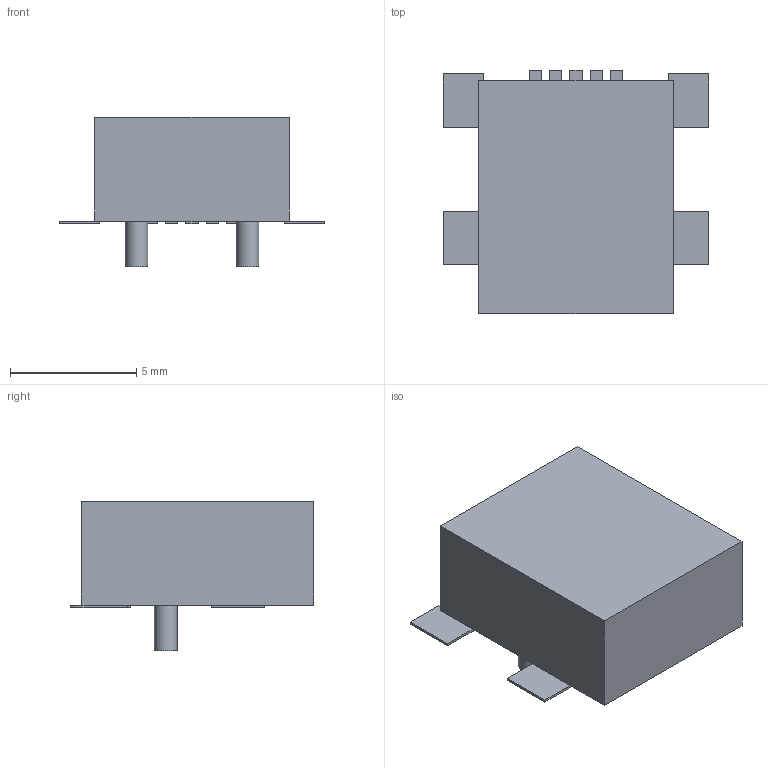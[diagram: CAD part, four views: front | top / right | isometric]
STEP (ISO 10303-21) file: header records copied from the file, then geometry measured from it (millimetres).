
FILE_DESCRIPTION(('FreeCAD Model'),'2;1');
FILE_NAME('/var/www/3D/0T/818698.1.2.stp','2020-06-30T16:17:21',( 'Author'),(''),'Open CASCADE STEP processor 6.9','FreeCAD','Unknown' );
FILE_SCHEMA(('AUTOMOTIVE_DESIGN { 1 0 10303 214 1 1 1 1 }'));
Length unit declared in the file: millimetre
Products named in the file (4): ASSEMBLY; Body; Pins; Lugs
Assembly tree (4 placements, depth 2):
  ASSEMBLY
    Body
    Pins
    Lugs  x2
Bounding box: 10.5 x 9.62 x 5.9 mm (x, y, z)
Volume: 296.9 mm3; surface area: 349.8 mm2
Topology: 14 solids, 14 shells, 72 faces, 132 edges, 88 vertices
Faces by surface type: plane 68, cylinder 4
Full cylindrical faces by diameter (mm): 0.9 x4
Entity records: 3435 total; most frequent: CARTESIAN_POINT 533, DIRECTION 524, LINE 370, VECTOR 370, ORIENTED_EDGE 252, PCURVE 252, DEFINITIONAL_REPRESENTATION 252, EDGE_CURVE 126
